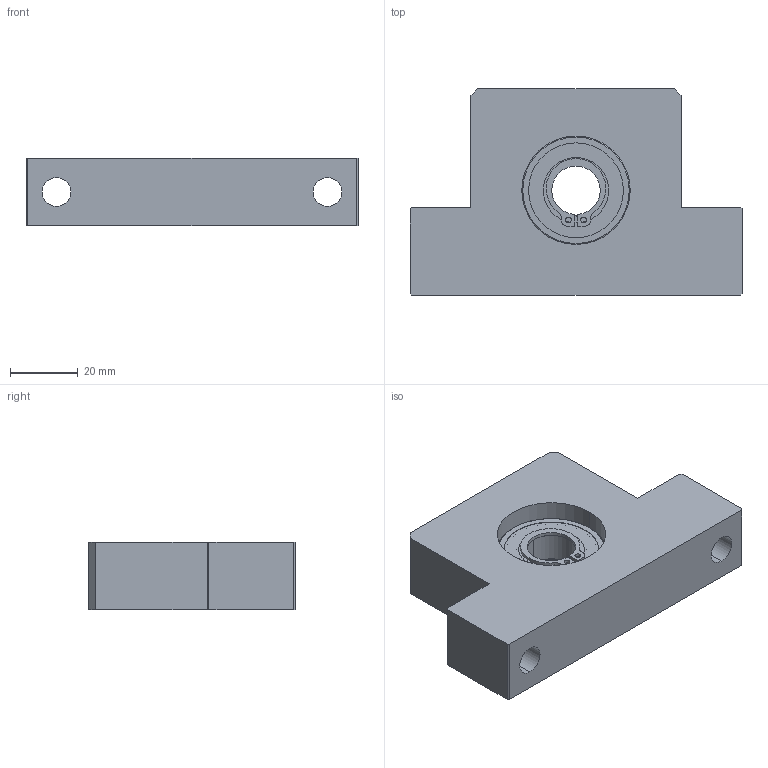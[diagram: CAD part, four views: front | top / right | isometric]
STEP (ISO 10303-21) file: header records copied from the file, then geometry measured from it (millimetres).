
FILE_DESCRIPTION (( 'STEP AP214' ), '1' );
FILE_NAME ('F-SBU-15.60.STEP', '2023-04-10T08:43:07', ( '' ), ( '' ), 'SwSTEP 2.0', 'SolidWorks 2021', '' );
FILE_SCHEMA (( 'AUTOMOTIVE_DESIGN' ));
Length unit declared in the file: millimetre
Products named in the file (9): STWN15; 6002ZZ; F-SBU-15.60; F-SBU-15.60 BODY; 6002ZZ Ball; 6002ZZ Inner ring; 6002ZZ Shield1; 6002ZZ Shield2; 6002ZZ Outer ring
Assembly tree (20 placements, depth 3):
  F-SBU-15.60
    F-SBU-15.60 BODY
    6002ZZ
      6002ZZ Shield2
      6002ZZ Ball  x13
      6002ZZ Inner ring
      6002ZZ Shield1
      6002ZZ Outer ring
    STWN15
Bounding box: 98 x 61 x 20 mm (x, y, z)
Volume: 79428.1 mm3; surface area: 23201 mm2
Topology: 19 solids, 19 shells, 121 faces, 310 edges, 205 vertices
Faces by surface type: cylinder 45, plane 36, sphere 26, torus 14
Entity records: 3251 total; most frequent: DIRECTION 579, CARTESIAN_POINT 484, ORIENTED_EDGE 442, AXIS2_PLACEMENT_3D 237, EDGE_CURVE 221, VERTEX_POINT 142, EDGE_LOOP 119, CIRCLE 116
